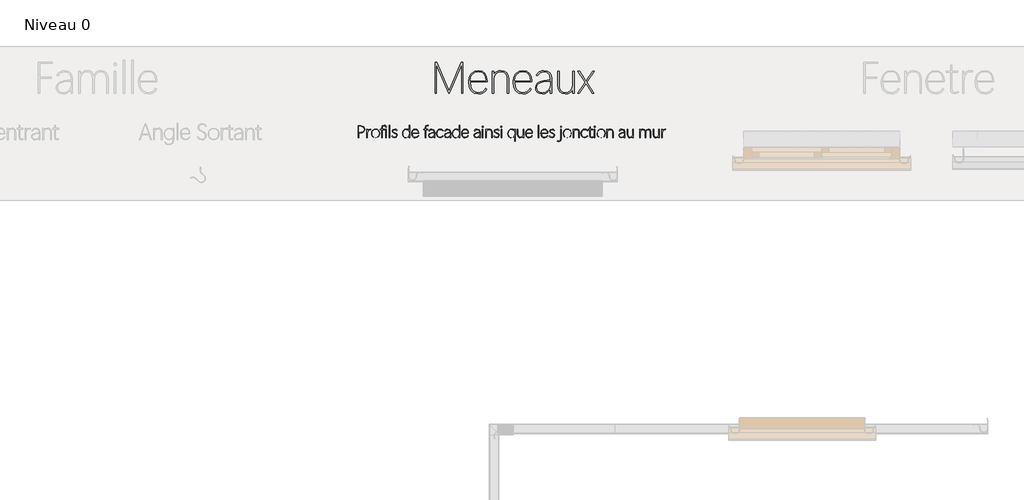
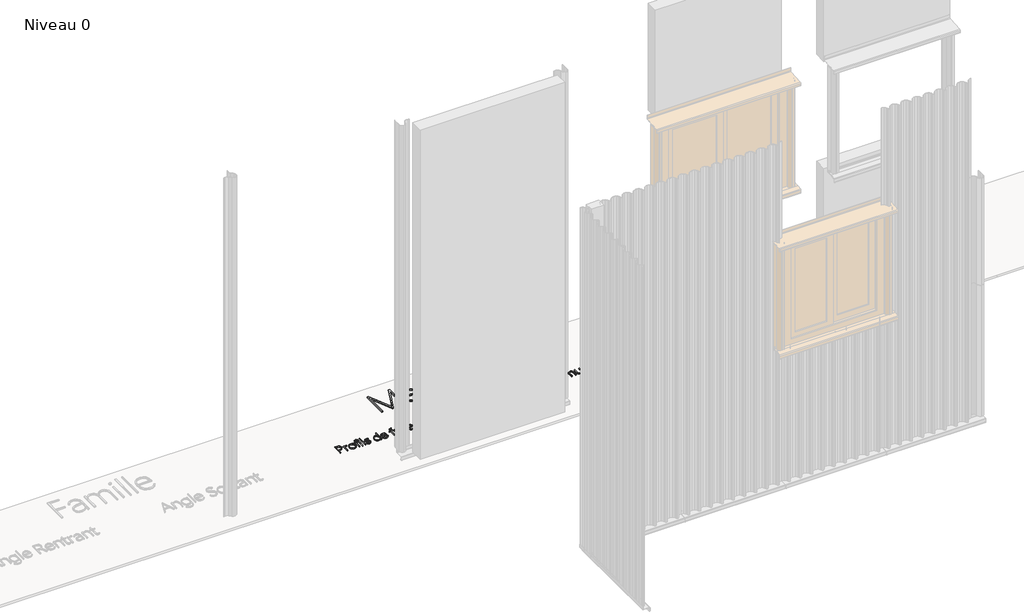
# One storey, part 6 of 11: 2 proxies.
"""IFC4 building model written with IfcOpenShell, lengths in millimetres."""

from ifc_helpers import new_model, si_unit, origin, origin_with_axes, place, context, project, spatial, polyline, outline, extrude, element, save

model = new_model("IFC4")

# Units and contexts
model_context = context("Model", 3, world=origin())
ifc_project = project(units=[si_unit("LENGTHUNIT", "METRE", prefix="MILLI")], contexts=[model_context])

# Site, building, storey
site = spatial("IfcSite", under=ifc_project)
building = spatial("IfcBuilding", under=site)
storey = spatial("IfcBuildingStorey", under=building, Name="Niveau 0", Elevation=0.0)

# Proxies
placement = place(None, origin())
element("IfcBuildingElementProxy", 1, Name="0.75mm", ObjectType="0.75mm", at=placement, inside=storey, context=model_context, shape_type="SweptSolid", body=[
    extrude(outline(polyline([(3020.1278032, -15014.394328), (3020.1278032, -15044.8333427), (3016.6688242, -15044.8333427), (3016.6688242, -14969.8292897), (3032.5578114, -14969.8292897), (3042.4828493, -14971.2603027), (3050.16513, -14975.5533419), (3055.0858065, -14982.3959833), (3056.726032, -14991.475803), (3055.0913855, -15000.7146242), (3050.187446, -15008.03427), (3042.2652684, -15012.8043135), (3031.5759077, -15014.394328), (3020.1278032, -15014.394328)]), holes=[polyline([(3020.1278032, -14973.0651087), (3020.1278032, -15011.091561), (3031.6205397, -15011.091561), (3047.4648948, -15006.0258306), (3051.7830395, -14999.9112485), (3053.222421, -14991.698963), (3051.83604, -14983.9023129), (3047.6768967, -14978.0081012), (3032.2007555, -14973.0651087), (3020.1278032, -14973.0651087)])]), origin_with_axes(), (0.0, 0.0, 1.0), 10.0),
    extrude(outline(polyline([(3095.0202762, -14994.2653022), (3092.431621, -14993.3838205), (3089.8429658, -14993.1495025), (3083.7423312, -14994.7255695), (3078.8300232, -14999.4537706), (3074.5118785, -15017.630147), (3074.5118785, -15044.8333427), (3071.3206915, -15044.8333427), (3071.3206915, -14991.2749591), (3074.5118785, -14991.2749591), (3074.5118785, -15003.1024355), (3080.5260387, -14993.5511904), (3089.9991778, -14990.1814754), (3093.0787848, -14990.4381094), (3096.2699718, -14991.4311711), (3095.0202762, -14994.2653022)])), origin_with_axes(), (0.0, 0.0, 1.0), 10.0),
    extrude(outline(polyline([(3127.0437264, -15046.0830383), (3116.7811591, -15044.1471259), (3108.711138, -15038.3393887), (3103.4808271, -15029.4241494), (3101.7373902, -15018.1657309), (3103.5394066, -15006.8292063), (3108.945456, -14997.8135451), (3117.1242674, -14991.9221229), (3127.2445703, -14989.9583155), (3137.4541372, -14991.9277019), (3145.4544208, -14997.8358611), (3150.6261522, -15006.8292063), (3152.3500626, -15018.0541509), (3150.6038362, -15029.2986219), (3145.3651568, -15038.2612827), (3137.2923463, -15044.1275994), (3127.0437264, -15046.0830383)]), holes=[polyline([(3127.1553064, -15043.0034312), (3136.0928616, -15041.2655733), (3143.0442935, -15036.0519994), (3147.5130711, -15028.0656633), (3149.0026637, -15018.0095189), (3147.5186501, -15007.9589535), (3143.0666095, -14999.9893544), (3136.1430726, -14994.7925175), (3127.2445703, -14993.0602386), (3118.2958571, -14994.823202), (3111.2216873, -15000.1120924), (3106.6190137, -15008.1625869), (3105.0847891, -15018.2103628), (3106.5939082, -15028.2135068), (3111.1212653, -15036.1301053), (3118.1480136, -15041.2850998), (3127.1553064, -15043.0034312)])]), origin_with_axes(), (0.0, 0.0, 1.0), 10.0),
    extrude(outline(polyline([(3186.6943761, -14969.2490739), (3183.927193, -14968.0774842), (3180.9368499, -14967.6869543), (3173.1597263, -14971.0901433), (3170.4929651, -14981.1211822), (3170.4929651, -14991.2749591), (3185.2884686, -14991.2749591), (3185.2884686, -14994.2653022), (3170.4929651, -14994.2653022), (3170.4929651, -15044.8333427), (3167.3017781, -15044.8333427), (3167.3017781, -14994.2653022), (3157.4157931, -14994.2653022), (3157.4157931, -14991.2749591), (3167.3017781, -14991.2749591), (3167.3017781, -14980.9649703), (3170.905811, -14968.914334), (3181.0484299, -14964.6966112), (3184.5743568, -14965.1206151), (3188.1672317, -14966.5265227), (3186.6943761, -14969.2490739)])), origin_with_axes(), (0.0, 0.0, 1.0), 10.0),
    extrude(outline(polyline([(3195.7100374, -15044.8333427), (3192.4519024, -15044.8333427), (3192.4519024, -14991.2749591), (3195.7100374, -14991.2749591), (3195.7100374, -15044.8333427)])), origin_with_axes(), (0.0, 0.0, 1.0), 10.0),
    extrude(outline(polyline([(3194.0363379, -14978.1977871), (3191.5704206, -14977.2605154), (3190.5773589, -14974.8057561), (3191.5704206, -14972.3398389), (3194.0363379, -14971.3914092), (3196.5580451, -14972.3398389), (3197.4730008, -14974.8057561), (3196.5580451, -14977.2605154), (3194.0363379, -14978.1977871)])), origin_with_axes(), (0.0, 0.0, 1.0), 10.0),
    extrude(outline(polyline([(3214.1430477, -15044.8333427), (3214.1430477, -14965.544619), (3217.3788667, -14965.544619), (3217.3788667, -15044.8333427), (3214.1430477, -15044.8333427)])), origin_with_axes(), (0.0, 0.0, 1.0), 10.0),
    extrude(outline(polyline([(3231.3709944, -15035.6837855), (3234.4059695, -15034.2109299), (3240.0407578, -15040.8387799), (3249.089893, -15043.1150112), (3258.0386062, -15039.9238242), (3261.6984291, -15031.2429028), (3258.819666, -15023.7000972), (3248.1526213, -15018.0987829), (3236.8607287, -15012.0065167), (3233.7811217, -15003.8834952), (3238.3224263, -14993.7297183), (3249.6254768, -14989.9583155), (3258.3063982, -14992.0337029), (3264.6887722, -14997.969757), (3261.8992731, -14999.5318766), (3256.5657507, -14994.6223581), (3249.5138969, -14992.9486586), (3240.5205516, -14995.8497377), (3237.0169407, -15003.5041234), (3239.4493839, -15009.9199714), (3249.3576849, -15015.0191758), (3261.5422172, -15021.5131298), (3265.0458281, -15030.9751109), (3260.4152595, -15042.0550015), (3249.089893, -15046.0830383), (3238.1662143, -15043.2600652), (3231.3709944, -15035.6837855)])), origin_with_axes(), (0.0, 0.0, 1.0), 10.0),
    extrude(outline(polyline([(3342.6496943, -15033.2736582), (3334.8279387, -15042.6910073), (3322.9558303, -15046.0830383), (3313.7030617, -15044.2196529), (3306.4754694, -15038.6294966), (3301.8142163, -15029.9541542), (3300.2604653, -15018.8352107), (3302.0317973, -15006.8571013), (3307.3457931, -14997.7019651), (3315.2874972, -14991.8942279), (3324.9419537, -14989.9583155), (3335.4751025, -14992.5469707), (3342.5715883, -14999.9112485), (3342.7278003, -14965.544619), (3345.9636193, -14965.544619), (3345.9636193, -15044.8333427), (3342.7278003, -15044.8333427), (3342.6496943, -15033.2736582)]), holes=[polyline([(3303.6078643, -15018.6343667), (3304.9607714, -15028.9053026), (3309.0194926, -15036.5987412), (3315.2317072, -15041.4022587), (3323.0450943, -15043.0034312), (3331.0983784, -15041.4664172), (3337.3608039, -15036.8553751), (3342.7278003, -15021.3569179), (3342.7278003, -15010.1542893), (3337.6509118, -14997.969757), (3324.8750058, -14993.0602386), (3316.4702448, -14994.784149), (3309.6443404, -14999.9558804), (3305.1169833, -15008.073323), (3303.6078643, -15018.6343667)])]), origin_with_axes(), (0.0, 0.0, 1.0), 10.0),
    extrude(outline(polyline([(3403.0032978, -15016.6594013), (3362.0980823, -15017.0499312), (3363.3617255, -15028.4673512), (3367.4650787, -15036.5652672), (3373.9227692, -15041.4050482), (3382.2494242, -15043.0480632), (3392.3808851, -15040.537514), (3399.5443189, -15033.0058663), (3402.37845, -15034.5233538), (3394.1661645, -15043.1931172), (3382.2494242, -15046.1499863), (3372.6395996, -15044.3228643), (3365.1888474, -15038.9753945), (3360.4104354, -15029.9011538), (3358.8176314, -15016.8937192), (3360.4690148, -15005.9114611), (3365.4231653, -14997.3337512), (3372.932497, -14991.8021744), (3382.2494242, -14989.9583155), (3391.0084515, -14991.6459625), (3397.5581955, -14996.7089034), (3401.6420222, -15004.9741894), (3403.0032978, -15016.6594013)]), holes=[polyline([(3399.7005308, -15014.0372721), (3394.8133283, -14998.3602869), (3382.1378442, -14993.0602386), (3368.4916144, -14998.4941829), (3362.2542943, -15014.0372721), (3399.7005308, -15014.0372721)])]), origin_with_axes(), (0.0, 0.0, 1.0), 10.0),
    extrude(outline(polyline([(3463.7697472, -14969.2490739), (3461.002564, -14968.0774842), (3458.0122209, -14967.6869543), (3450.2350973, -14971.0901433), (3447.5683361, -14981.1211822), (3447.5683361, -14991.2749591), (3462.3638396, -14991.2749591), (3462.3638396, -14994.2653022), (3447.5683361, -14994.2653022), (3447.5683361, -15044.8333427), (3444.3771491, -15044.8333427), (3444.3771491, -14994.2653022), (3434.4911642, -14994.2653022), (3434.4911642, -14991.2749591), (3444.3771491, -14991.2749591), (3444.3771491, -14980.9649703), (3447.981182, -14968.914334), (3458.1238009, -14964.6966112), (3461.6497278, -14965.1206151), (3465.2426027, -14966.5265227), (3463.7697472, -14969.2490739)])), origin_with_axes(), (0.0, 0.0, 1.0), 10.0),
    extrude(outline(polyline([(3505.5229704, -15044.8333427), (3502.2648354, -15044.8333427), (3502.2648354, -15034.5233538), (3494.3984478, -15042.8472193), (3483.0730813, -15046.0830383), (3471.022445, -15041.8987896), (3466.7600903, -15031.1759549), (3471.4129748, -15020.2745922), (3486.0187924, -15014.6621199), (3502.3317834, -15012.3635726), (3502.3317834, -15009.2170176), (3498.2256406, -14997.1663813), (3487.112276, -14993.0602386), (3477.7730329, -14995.5707878), (3471.0447609, -15002.9908555), (3468.0767339, -15001.317156), (3476.1997554, -14992.8705526), (3487.112276, -14989.9583155), (3500.5241879, -14994.957098), (3505.5229704, -15009.2616496), (3505.5229704, -15044.8333427)]), holes=[polyline([(3502.2648354, -15023.9678891), (3502.2648354, -15015.4431797), (3486.4204802, -15017.585515), (3474.05742, -15022.0487137), (3470.1074892, -15031.0866909), (3473.6892061, -15039.8680342), (3483.3408732, -15043.1150112), (3496.6523631, -15037.5918029), (3502.2648354, -15023.9678891)])]), origin_with_axes(), (0.0, 0.0, 1.0), 10.0),
    extrude(outline(polyline([(3560.7996854, -15036.1077894), (3552.8551919, -15043.4720671), (3541.4517194, -15046.0830383), (3531.8697898, -15044.1805999), (3524.1456667, -15038.4732846), (3519.0492517, -15029.5915194), (3517.3504468, -15018.1657309), (3519.1134102, -15006.5223614), (3524.4023006, -14997.5680692), (3532.3858471, -14991.8607539), (3542.2327791, -14989.9583155), (3552.7770859, -14992.4242327), (3560.6881055, -14999.7550365), (3558.1440822, -15001.518), (3551.0475964, -14994.979414), (3542.1881471, -14992.9932906), (3533.6439113, -14994.6753586), (3526.7566379, -14999.7215625), (3522.2125438, -15007.7078986), (3520.6978457, -15018.2103628), (3522.1734908, -15028.3669292), (3526.6004259, -15036.2528433), (3533.2924344, -15041.3157843), (3541.5632993, -15043.0034312), (3551.1814924, -15040.8053059), (3558.2333462, -15034.2109299), (3560.7996854, -15036.1077894)])), origin_with_axes(), (0.0, 0.0, 1.0), 10.0),
    extrude(outline(polyline([(3608.3550669, -15044.8333427), (3605.0969319, -15044.8333427), (3605.0969319, -15034.5233538), (3597.2305443, -15042.8472193), (3585.9051777, -15046.0830383), (3573.8545414, -15041.8987896), (3569.5921867, -15031.1759549), (3574.2450713, -15020.2745922), (3588.8508888, -15014.6621199), (3605.1638798, -15012.3635726), (3605.1638798, -15009.2170176), (3601.0577371, -14997.1663813), (3589.9443725, -14993.0602386), (3580.6051294, -14995.5707878), (3573.8768574, -15002.9908555), (3570.9088303, -15001.317156), (3579.0318518, -14992.8705526), (3589.9443725, -14989.9583155), (3603.3562844, -14994.957098), (3608.3550669, -15009.2616496), (3608.3550669, -15044.8333427)]), holes=[polyline([(3605.0969319, -15023.9678891), (3605.0969319, -15015.4431797), (3589.2525767, -15017.585515), (3576.8895165, -15022.0487137), (3572.9395857, -15031.0866909), (3576.5213026, -15039.8680342), (3586.1729697, -15043.1150112), (3599.4844596, -15037.5918029), (3605.0969319, -15023.9678891)])]), origin_with_axes(), (0.0, 0.0, 1.0), 10.0),
    extrude(outline(polyline([(3662.5717722, -15033.2736582), (3654.7500166, -15042.6910073), (3642.8779083, -15046.0830383), (3633.6251396, -15044.2196529), (3626.3975473, -15038.6294966), (3621.7362943, -15029.9541542), (3620.1825432, -15018.8352107), (3621.9538752, -15006.8571013), (3627.2678711, -14997.7019651), (3635.2095751, -14991.8942279), (3644.8640317, -14989.9583155), (3655.3971804, -14992.5469707), (3662.4936663, -14999.9112485), (3662.6498782, -14965.544619), (3665.8856972, -14965.544619), (3665.8856972, -15044.8333427), (3662.6498782, -15044.8333427), (3662.5717722, -15033.2736582)]), holes=[polyline([(3623.5299422, -15018.6343667), (3624.8828493, -15028.9053026), (3628.9415705, -15036.5987412), (3635.1537851, -15041.4022587), (3642.9671722, -15043.0034312), (3651.0204563, -15041.4664172), (3657.2828819, -15036.8553751), (3662.6498782, -15021.3569179), (3662.6498782, -15010.1542893), (3657.5729898, -14997.969757), (3644.7970837, -14993.0602386), (3636.3923228, -14994.784149), (3629.5664184, -14999.9558804), (3625.0390612, -15008.073323), (3623.5299422, -15018.6343667)])]), origin_with_axes(), (0.0, 0.0, 1.0), 10.0),
    extrude(outline(polyline([(3722.9253757, -15016.6594013), (3682.0201603, -15017.0499312), (3683.2838034, -15028.4673512), (3687.3871566, -15036.5652672), (3693.8448471, -15041.4050482), (3702.1715021, -15043.0480632), (3712.302963, -15040.537514), (3719.4663968, -15033.0058663), (3722.3005279, -15034.5233538), (3714.0882424, -15043.1931172), (3702.1715021, -15046.1499863), (3692.5616775, -15044.3228643), (3685.1109253, -15038.9753945), (3680.3325133, -15029.9011538), (3678.7397093, -15016.8937192), (3680.3910928, -15005.9114611), (3685.3452433, -14997.3337512), (3692.8545749, -14991.8021744), (3702.1715021, -14989.9583155), (3710.9305294, -14991.6459625), (3717.4802734, -14996.7089034), (3721.5641001, -15004.9741894), (3722.9253757, -15016.6594013)]), holes=[polyline([(3719.6226087, -15014.0372721), (3714.7354062, -14998.3602869), (3702.0599221, -14993.0602386), (3688.4136923, -14998.4941829), (3682.1763722, -15014.0372721), (3719.6226087, -15014.0372721)])]), origin_with_axes(), (0.0, 0.0, 1.0), 10.0),
    extrude(outline(polyline([(3796.8805771, -15044.8333427), (3793.6224421, -15044.8333427), (3793.6224421, -15034.5233538), (3785.7560545, -15042.8472193), (3774.4306879, -15046.0830383), (3762.3800516, -15041.8987896), (3758.1176969, -15031.1759549), (3762.7705815, -15020.2745922), (3777.376399, -15014.6621199), (3793.68939, -15012.3635726), (3793.68939, -15009.2170176), (3789.5832473, -14997.1663813), (3778.4698827, -14993.0602386), (3769.1306396, -14995.5707878), (3762.4023676, -15002.9908555), (3759.4343405, -15001.317156), (3767.557362, -14992.8705526), (3778.4698827, -14989.9583155), (3791.8817946, -14994.957098), (3796.8805771, -15009.2616496), (3796.8805771, -15044.8333427)]), holes=[polyline([(3793.6224421, -15023.9678891), (3793.6224421, -15015.4431797), (3777.7780869, -15017.585515), (3765.4150267, -15022.0487137), (3761.4650959, -15031.0866909), (3765.0468128, -15039.8680342), (3774.6984799, -15043.1150112), (3788.0099698, -15037.5918029), (3793.6224421, -15023.9678891)])]), origin_with_axes(), (0.0, 0.0, 1.0), 10.0),
    extrude(outline(polyline([(3813.8853638, -14978.1977871), (3811.4194466, -14977.2605154), (3810.4263849, -14974.8057561), (3811.4194466, -14972.3398389), (3813.8853638, -14971.3914092), (3816.4070711, -14972.3398389), (3817.3220268, -14974.8057561), (3816.4070711, -14977.2605154), (3813.8853638, -14978.1977871)])), origin_with_axes(), (0.0, 0.0, 1.0), 10.0),
    extrude(outline(polyline([(3815.5590633, -15044.8333427), (3812.3009283, -15044.8333427), (3812.3009283, -14991.2749591), (3815.5590633, -14991.2749591), (3815.5590633, -15044.8333427)])), origin_with_axes(), (0.0, 0.0, 1.0), 10.0),
    extrude(outline(polyline([(3873.6922255, -15044.8333427), (3870.5010385, -15044.8333427), (3870.5010385, -15011.4709329), (3866.4172117, -14997.8916511), (3855.0583712, -14993.0602386), (3842.2043592, -14998.237549), (3837.2278927, -15011.4709329), (3837.2278927, -15044.8333427), (3833.9920737, -15044.8333427), (3833.9920737, -14991.2749591), (3837.2278927, -14991.2749591), (3837.2278927, -15000.4245163), (3844.5810124, -14992.6585507), (3855.2368992, -14989.9583155), (3863.0251808, -14991.3781706), (3868.849655, -14995.6377358), (3873.6922255, -15011.158509), (3873.6922255, -15044.8333427)])), origin_with_axes(), (0.0, 0.0, 1.0), 10.0),
    extrude(outline(polyline([(3885.4973859, -15035.6837855), (3888.532361, -15034.2109299), (3894.1671492, -15040.8387799), (3903.2162845, -15043.1150112), (3912.1649977, -15039.9238242), (3915.8248206, -15031.2429028), (3912.9460575, -15023.7000972), (3902.2790127, -15018.0987829), (3890.9871202, -15012.0065167), (3887.9075132, -15003.8834952), (3892.4488178, -14993.7297183), (3903.7518683, -14989.9583155), (3912.4327896, -14992.0337029), (3918.8151637, -14997.969757), (3916.0256645, -14999.5318766), (3910.6921422, -14994.6223581), (3903.6402883, -14992.9486586), (3894.6469431, -14995.8497377), (3891.1433322, -15003.5041234), (3893.5757754, -15009.9199714), (3903.4840764, -15015.0191758), (3915.6686086, -15021.5131298), (3919.1722196, -15030.9751109), (3914.541651, -15042.0550015), (3903.2162845, -15046.0830383), (3892.2926058, -15043.2600652), (3885.4973859, -15035.6837855)])), origin_with_axes(), (0.0, 0.0, 1.0), 10.0),
    extrude(outline(polyline([(3933.8561431, -14978.1977871), (3931.3902258, -14977.2605154), (3930.3971641, -14974.8057561), (3931.3902258, -14972.3398389), (3933.8561431, -14971.3914092), (3936.3778503, -14972.3398389), (3937.292806, -14974.8057561), (3936.3778503, -14977.2605154), (3933.8561431, -14978.1977871)])), origin_with_axes(), (0.0, 0.0, 1.0), 10.0),
    extrude(outline(polyline([(3935.5298426, -15044.8333427), (3932.2717076, -15044.8333427), (3932.2717076, -14991.2749591), (3935.5298426, -14991.2749591), (3935.5298426, -15044.8333427)])), origin_with_axes(), (0.0, 0.0, 1.0), 10.0),
    extrude(outline(polyline([(4021.5133642, -15069.4701991), (4018.2775452, -15069.4701991), (4018.2775452, -15033.2290262), (4010.2326297, -15042.7356393), (3998.5055752, -15046.0830383), (3989.2249116, -15044.2196529), (3982.0028983, -15038.6294966), (3977.3583822, -15029.9541542), (3975.8102102, -15018.8352107), (3977.5815422, -15006.8571013), (3982.895538, -14997.7019651), (3990.8372421, -14991.8942279), (4000.4916986, -14989.9583155), (4011.0025314, -14992.5023387), (4018.1213332, -14999.9558804), (4018.2775452, -14991.2749591), (4021.5133642, -14991.2749591), (4021.5133642, -15069.4701991)]), holes=[polyline([(4018.2775452, -15021.2007059), (4018.2775452, -15010.3551333), (4013.2564467, -14997.9474411), (4000.4247507, -14993.0602386), (3992.0199897, -14994.77857), (3985.1940853, -14999.9335644), (3980.6667282, -15008.045428), (3979.1576092, -15018.6343667), (3980.5021478, -15028.9053026), (3984.5357635, -15036.5987412), (3990.7396096, -15041.4022587), (3998.5948392, -15043.0034312), (4006.5783858, -15041.4524697), (4012.8547588, -15036.7995851), (4018.2775452, -15021.2007059)])]), origin_with_axes(), (0.0, 0.0, 1.0), 10.0),
    extrude(outline(polyline([(4076.8347112, -15044.7887107), (4073.6435242, -15044.7887107), (4073.6435242, -15035.6168375), (4066.2122985, -15043.3939611), (4055.8576777, -15046.0830383), (4048.091712, -15044.6854992), (4042.1556579, -15040.492882), (4037.1345594, -15025.0167408), (4037.1345594, -14991.2303271), (4040.3703784, -14991.2303271), (4040.3703784, -15024.7043169), (4044.5769431, -15038.1162287), (4056.1254696, -15043.0034312), (4068.6670577, -15037.8038048), (4073.6435242, -15024.5927369), (4073.6435242, -14991.2303271), (4076.8347112, -14991.2303271), (4076.8347112, -15044.7887107)])), origin_with_axes(), (0.0, 0.0, 1.0), 10.0),
    extrude(outline(polyline([(4132.8255381, -15016.6594013), (4091.9203226, -15017.0499312), (4093.1839657, -15028.4673512), (4097.287319, -15036.5652672), (4103.7450095, -15041.4050482), (4112.0716644, -15043.0480632), (4122.2031253, -15040.537514), (4129.3665591, -15033.0058663), (4132.2006903, -15034.5233538), (4123.9884048, -15043.1931172), (4112.0716644, -15046.1499863), (4102.4618399, -15044.3228643), (4095.0110877, -15038.9753945), (4090.2326756, -15029.9011538), (4088.6398716, -15016.8937192), (4090.2912551, -15005.9114611), (4095.2454056, -14997.3337512), (4102.7547373, -14991.8021744), (4112.0716644, -14989.9583155), (4120.8306917, -14991.6459625), (4127.3804357, -14996.7089034), (4131.4642625, -15004.9741894), (4132.8255381, -15016.6594013)]), holes=[polyline([(4129.5227711, -15014.0372721), (4124.6355686, -14998.3602869), (4111.9600845, -14993.0602386), (4098.3138546, -14998.4941829), (4092.0765346, -15014.0372721), (4129.5227711, -15014.0372721)])]), origin_with_axes(), (0.0, 0.0, 1.0), 10.0),
    extrude(outline(polyline([(4171.0528343, -15044.8333427), (4171.0528343, -14965.544619), (4174.2886534, -14965.544619), (4174.2886534, -15044.8333427), (4171.0528343, -15044.8333427)])), origin_with_axes(), (0.0, 0.0, 1.0), 10.0),
    extrude(outline(polyline([(4231.3729639, -15016.6594013), (4190.4677484, -15017.0499312), (4191.7313915, -15028.4673512), (4195.8347448, -15036.5652672), (4202.2924353, -15041.4050482), (4210.6190902, -15043.0480632), (4220.7505511, -15040.537514), (4227.9139849, -15033.0058663), (4230.748116, -15034.5233538), (4222.5358306, -15043.1931172), (4210.6190902, -15046.1499863), (4201.0092657, -15044.3228643), (4193.5585134, -15038.9753945), (4188.7801014, -15029.9011538), (4187.1872974, -15016.8937192), (4188.8386809, -15005.9114611), (4193.7928314, -14997.3337512), (4201.3021631, -14991.8021744), (4210.6190902, -14989.9583155), (4219.3781175, -14991.6459625), (4225.9278615, -14996.7089034), (4230.0116883, -15004.9741894), (4231.3729639, -15016.6594013)]), holes=[polyline([(4228.0701969, -15014.0372721), (4223.1829944, -14998.3602869), (4210.5075103, -14993.0602386), (4196.8612804, -14998.4941829), (4190.6239603, -15014.0372721), (4228.0701969, -15014.0372721)])]), origin_with_axes(), (0.0, 0.0, 1.0), 10.0),
    extrude(outline(polyline([(4241.1250529, -15035.6837855), (4244.1600279, -15034.2109299), (4249.7948162, -15040.8387799), (4258.8439514, -15043.1150112), (4267.7926647, -15039.9238242), (4271.4524876, -15031.2429028), (4268.5737245, -15023.7000972), (4257.9066797, -15018.0987829), (4246.6147872, -15012.0065167), (4243.5351801, -15003.8834952), (4248.0764847, -14993.7297183), (4259.3795353, -14989.9583155), (4268.0604566, -14992.0337029), (4274.4428307, -14997.969757), (4271.6533315, -14999.5318766), (4266.3198091, -14994.6223581), (4259.2679553, -14992.9486586), (4250.2746101, -14995.8497377), (4246.7709991, -15003.5041234), (4249.2034424, -15009.9199714), (4259.1117434, -15015.0191758), (4271.2962756, -15021.5131298), (4274.7998865, -15030.9751109), (4270.169318, -15042.0550015), (4258.8439514, -15046.0830383), (4247.9202728, -15043.2600652), (4241.1250529, -15035.6837855)])), origin_with_axes(), (0.0, 0.0, 1.0), 10.0),
    extrude(outline(polyline([(4316.7539537, -14978.1977871), (4314.2880364, -14977.2047254), (4313.2949747, -14974.8057561), (4314.2880364, -14972.3621549), (4316.7539537, -14971.3914092), (4319.2421869, -14972.3621549), (4320.2129326, -14974.8057561), (4319.2421869, -14977.2047254), (4316.7539537, -14978.1977871)])), origin_with_axes(), (0.0, 0.0, 1.0), 10.0),
    extrude(outline(polyline([(4318.3830212, -15049.2742253), (4314.3549844, -15064.9177365), (4302.62793, -15069.983467), (4297.4283036, -15069.2805132), (4293.009737, -15067.3278638), (4294.5272245, -15064.5606806), (4298.2874693, -15066.4017501), (4302.583298, -15066.9484919), (4312.0787531, -15062.7196112), (4315.1918342, -15049.4973853), (4315.1918342, -14991.2749591), (4318.3830212, -14991.2749591), (4318.3830212, -15049.2742253)])), origin_with_axes(), (0.0, 0.0, 1.0), 10.0),
    extrude(outline(polyline([(4356.7442134, -15046.0830383), (4346.4816461, -15044.1471259), (4338.411625, -15038.3393887), (4333.1813141, -15029.4241494), (4331.4378772, -15018.1657309), (4333.2398936, -15006.8292063), (4338.645943, -14997.8135451), (4346.8247545, -14991.9221229), (4356.9450574, -14989.9583155), (4367.1546242, -14991.9277019), (4375.1549078, -14997.8358611), (4380.3266392, -15006.8292063), (4382.0505497, -15018.0541509), (4380.3043232, -15029.2986219), (4375.0656438, -15038.2612827), (4366.9928333, -15044.1275994), (4356.7442134, -15046.0830383)]), holes=[polyline([(4356.8557934, -15043.0034312), (4365.7933486, -15041.2655733), (4372.7447805, -15036.0519994), (4377.2135581, -15028.0656633), (4378.7031507, -15018.0095189), (4377.2191371, -15007.9589535), (4372.7670965, -14999.9893544), (4365.8435596, -14994.7925175), (4356.9450574, -14993.0602386), (4347.9963441, -14994.823202), (4340.9221743, -15000.1120924), (4336.3195007, -15008.1625869), (4334.7852762, -15018.2103628), (4336.2943952, -15028.2135068), (4340.8217523, -15036.1301053), (4347.8485006, -15041.2850998), (4356.8557934, -15043.0034312)])]), origin_with_axes(), (0.0, 0.0, 1.0), 10.0),
    extrude(outline(polyline([(4433.5558619, -15044.8333427), (4430.3646749, -15044.8333427), (4430.3646749, -15011.4709329), (4426.2808481, -14997.8916511), (4414.9220076, -14993.0602386), (4402.0679955, -14998.237549), (4397.0915291, -15011.4709329), (4397.0915291, -15044.8333427), (4393.85571, -15044.8333427), (4393.85571, -14991.2749591), (4397.0915291, -14991.2749591), (4397.0915291, -15000.4245163), (4404.4446488, -14992.6585507), (4415.1005355, -14989.9583155), (4422.8888171, -14991.3781706), (4428.7132914, -14995.6377358), (4433.5558619, -15011.158509), (4433.5558619, -15044.8333427)])), origin_with_axes(), (0.0, 0.0, 1.0), 10.0),
    extrude(outline(polyline([(4487.7167773, -15036.1077894), (4479.7722837, -15043.4720671), (4468.3688112, -15046.0830383), (4458.7868816, -15044.1805999), (4451.0627585, -15038.4732846), (4445.9663436, -15029.5915194), (4444.2675386, -15018.1657309), (4446.030502, -15006.5223614), (4451.3193924, -14997.5680692), (4459.302939, -14991.8607539), (4469.149871, -14989.9583155), (4479.6941777, -14992.4242327), (4487.6051973, -14999.7550365), (4485.0611741, -15001.518), (4477.9646883, -14994.979414), (4469.105239, -14992.9932906), (4460.5610031, -14994.6753586), (4453.6737297, -14999.7215625), (4449.1296356, -15007.7078986), (4447.6149376, -15018.2103628), (4449.0905826, -15028.3669292), (4453.5175178, -15036.2528433), (4460.2095262, -15041.3157843), (4468.4803912, -15043.0034312), (4478.0985842, -15040.8053059), (4485.1504381, -15034.2109299), (4487.7167773, -15036.1077894)])), origin_with_axes(), (0.0, 0.0, 1.0), 10.0),
    extrude(outline(polyline([(4521.5031909, -15042.2223715), (4517.0957823, -15045.0230286), (4512.2420538, -15045.8821944), (4504.6880901, -15042.9476413), (4502.1552248, -15034.166298), (4502.1552248, -14994.2653022), (4492.3361879, -14994.2653022), (4492.3361879, -14991.2749591), (4502.1552248, -14991.2749591), (4502.1552248, -14976.8811435), (4505.3910439, -14976.3232437), (4505.3910439, -14991.2749591), (4519.9857034, -14991.2749591), (4519.9857034, -14994.2653022), (4505.3910439, -14994.2653022), (4505.3910439, -15033.943138), (4507.1763233, -15040.67141), (4512.4652137, -15042.8918513), (4516.1473526, -15042.1888975), (4519.6286475, -15039.8568762), (4521.5031909, -15042.2223715)])), origin_with_axes(), (0.0, 0.0, 1.0), 10.0),
    extrude(outline(polyline([(4532.2818156, -14978.1977871), (4529.8158984, -14977.2605154), (4528.8228367, -14974.8057561), (4529.8158984, -14972.3398389), (4532.2818156, -14971.3914092), (4534.8035228, -14972.3398389), (4535.7184786, -14974.8057561), (4534.8035228, -14977.2605154), (4532.2818156, -14978.1977871)])), origin_with_axes(), (0.0, 0.0, 1.0), 10.0),
    extrude(outline(polyline([(4533.9555151, -15044.8333427), (4530.6973801, -15044.8333427), (4530.6973801, -14991.2749591), (4533.9555151, -14991.2749591), (4533.9555151, -15044.8333427)])), origin_with_axes(), (0.0, 0.0, 1.0), 10.0),
    extrude(outline(polyline([(4573.8341949, -15046.0830383), (4563.5716275, -15044.1471259), (4555.5016065, -15038.3393887), (4550.2712956, -15029.4241494), (4548.5278586, -15018.1657309), (4550.3298751, -15006.8292063), (4555.7359244, -14997.8135451), (4563.9147359, -14991.9221229), (4574.0350388, -14989.9583155), (4584.2446057, -14991.9277019), (4592.2448892, -14997.8358611), (4597.4166206, -15006.8292063), (4599.1405311, -15018.0541509), (4597.3943046, -15029.2986219), (4592.1556253, -15038.2612827), (4584.0828147, -15044.1275994), (4573.8341949, -15046.0830383)]), holes=[polyline([(4573.9457748, -15043.0034312), (4582.8833301, -15041.2655733), (4589.834762, -15036.0519994), (4594.3035396, -15028.0656633), (4595.7931321, -15018.0095189), (4594.3091186, -15007.9589535), (4589.857078, -14999.9893544), (4582.9335411, -14994.7925175), (4574.0350388, -14993.0602386), (4565.0863255, -14994.823202), (4558.0121557, -15000.1120924), (4553.4094821, -15008.1625869), (4551.8752576, -15018.2103628), (4553.3843766, -15028.2135068), (4557.9117337, -15036.1301053), (4564.9384821, -15041.2850998), (4573.9457748, -15043.0034312)])]), origin_with_axes(), (0.0, 0.0, 1.0), 10.0),
    extrude(outline(polyline([(4650.6458433, -15044.8333427), (4647.4546563, -15044.8333427), (4647.4546563, -15011.4709329), (4643.3708296, -14997.8916511), (4632.011989, -14993.0602386), (4619.157977, -14998.237549), (4614.1815105, -15011.4709329), (4614.1815105, -15044.8333427), (4610.9456915, -15044.8333427), (4610.9456915, -14991.2749591), (4614.1815105, -14991.2749591), (4614.1815105, -15000.4245163), (4621.5346302, -14992.6585507), (4632.190517, -14989.9583155), (4639.9787986, -14991.3781706), (4645.8032728, -14995.6377358), (4650.6458433, -15011.158509), (4650.6458433, -15044.8333427)])), origin_with_axes(), (0.0, 0.0, 1.0), 10.0),
    extrude(outline(polyline([(4726.654116, -15044.8333427), (4723.395981, -15044.8333427), (4723.395981, -15034.5233538), (4715.5295934, -15042.8472193), (4704.2042269, -15046.0830383), (4692.1535906, -15041.8987896), (4687.8912359, -15031.1759549), (4692.5441205, -15020.2745922), (4707.149938, -15014.6621199), (4723.462929, -15012.3635726), (4723.462929, -15009.2170176), (4719.3567863, -14997.1663813), (4708.2434217, -14993.0602386), (4698.9041785, -14995.5707878), (4692.1759066, -15002.9908555), (4689.2078795, -15001.317156), (4697.330901, -14992.8705526), (4708.2434217, -14989.9583155), (4721.6553336, -14994.957098), (4726.654116, -15009.2616496), (4726.654116, -15044.8333427)]), holes=[polyline([(4723.395981, -15023.9678891), (4723.395981, -15015.4431797), (4707.5516259, -15017.585515), (4695.1885657, -15022.0487137), (4691.2386349, -15031.0866909), (4694.8203518, -15039.8680342), (4704.4720188, -15043.1150112), (4717.7835087, -15037.5918029), (4723.395981, -15023.9678891)])]), origin_with_axes(), (0.0, 0.0, 1.0), 10.0),
    extrude(outline(polyline([(4780.9489274, -15044.7887107), (4777.7577404, -15044.7887107), (4777.7577404, -15035.6168375), (4770.3265146, -15043.3939611), (4759.9718938, -15046.0830383), (4752.2059282, -15044.6854992), (4746.269874, -15040.492882), (4741.2487755, -15025.0167408), (4741.2487755, -14991.2303271), (4744.4845946, -14991.2303271), (4744.4845946, -15024.7043169), (4748.6911593, -15038.1162287), (4760.2396857, -15043.0034312), (4772.7812739, -15037.8038048), (4777.7577404, -15024.5927369), (4777.7577404, -14991.2303271), (4780.9489274, -14991.2303271), (4780.9489274, -15044.7887107)])), origin_with_axes(), (0.0, 0.0, 1.0), 10.0),
    extrude(outline(polyline([(4892.3503652, -15044.8333427), (4889.1591782, -15044.8333427), (4889.1591782, -15011.4709329), (4885.4435653, -14997.5569112), (4875.1447345, -14993.0602386), (4863.618524, -14998.3379709), (4858.9879554, -15011.7833568), (4858.9879554, -15044.8333427), (4855.7521364, -15044.8333427), (4855.7521364, -15011.203141), (4852.3266315, -14997.8135451), (4842.1393806, -14993.0602386), (4830.1891663, -14998.125969), (4825.5585977, -15011.4039849), (4825.5585977, -15044.8333427), (4822.3227787, -15044.8333427), (4822.3227787, -14991.2749591), (4825.5585977, -14991.2749591), (4825.5585977, -15000.0005124), (4832.6550835, -14992.5023387), (4842.4071725, -14989.9583155), (4852.6836874, -14993.4619264), (4857.8944718, -15002.7900116), (4864.7901137, -14993.3391885), (4875.1893665, -14989.9583155), (4882.5369072, -14991.3140121), (4887.9317986, -14995.3811018), (4892.3503652, -15011.203141), (4892.3503652, -15044.8333427)])), origin_with_axes(), (0.0, 0.0, 1.0), 10.0),
    extrude(outline(polyline([(4946.6228606, -15044.7887107), (4943.4316736, -15044.7887107), (4943.4316736, -15035.6168375), (4936.0004478, -15043.3939611), (4925.645827, -15046.0830383), (4917.8798614, -15044.6854992), (4911.9438072, -15040.492882), (4906.9227088, -15025.0167408), (4906.9227088, -14991.2303271), (4910.1585278, -14991.2303271), (4910.1585278, -15024.7043169), (4914.3650925, -15038.1162287), (4925.9136189, -15043.0034312), (4938.4552071, -15037.8038048), (4943.4316736, -15024.5927369), (4943.4316736, -14991.2303271), (4946.6228606, -14991.2303271), (4946.6228606, -15044.7887107)])), origin_with_axes(), (0.0, 0.0, 1.0), 10.0),
    extrude(outline(polyline([(4985.9882725, -14994.2653022), (4983.3996173, -14993.3838205), (4980.8109621, -14993.1495025), (4974.7103275, -14994.7255695), (4969.7980195, -14999.4537706), (4965.4798748, -15017.630147), (4965.4798748, -15044.8333427), (4962.2886878, -15044.8333427), (4962.2886878, -14991.2749591), (4965.4798748, -14991.2749591), (4965.4798748, -15003.1024355), (4971.494035, -14993.5511904), (4980.9671741, -14990.1814754), (4984.0467811, -14990.4381094), (4987.2379681, -14991.4311711), (4985.9882725, -14994.2653022)])), origin_with_axes(), (0.0, 0.0, 1.0), 10.0),
])
element("IfcBuildingElementProxy", 2, Name="2mm", ObjectType="2mm", at=placement, inside=storey, context=model_context, shape_type="SweptSolid", body=[
    extrude(outline(polyline([(3687.2817311, -14760.83192), (3678.5338617, -14760.83192), (3678.5338617, -14595.3960241), (3678.5338617, -14589.8914125), (3678.6528804, -14580.5186953), (3676.2129984, -14584.8628753), (3674.1896817, -14589.4450926), (3600.398131, -14760.83192), (3595.9349324, -14760.83192), (3522.0243631, -14589.8616578), (3520.0010463, -14585.3091952), (3517.9777296, -14580.5186953), (3517.6801831, -14587.06472), (3517.6801831, -14593.7297633), (3517.6801831, -14760.83192), (3508.6347672, -14760.83192), (3508.6347672, -14560.821112), (3518.5133135, -14560.821112), (3594.2686716, -14735.8380077), (3596.053951, -14740.0036598), (3598.0177584, -14744.9429329), (3600.5469043, -14740.1226784), (3602.659485, -14735.3024239), (3677.81975, -14560.821112), (3687.2817311, -14560.821112), (3687.2817311, -14760.83192)])), origin_with_axes(), (0.0, 0.0, 1.0), 10.0),
    extrude(outline(polyline([(3841.8869317, -14686.7428228), (3732.8063571, -14686.7428228), (3736.1760721, -14717.1892761), (3747.1183474, -14738.7837188), (3764.3388554, -14751.6898015), (3786.5432686, -14756.0711748), (3800.8850136, -14754.3974754), (3813.5604977, -14749.3763769), (3824.2572971, -14741.0078795), (3832.6629878, -14729.291983), (3840.2206708, -14733.3386165), (3830.6396711, -14746.735651), (3818.3212429, -14756.4579854), (3803.5331781, -14762.3717236), (3786.5432686, -14764.3429696), (3760.9170698, -14759.4706445), (3741.0483972, -14745.2107248), (3728.3059651, -14721.0127496), (3724.0584878, -14686.3262576), (3728.4621771, -14657.0402359), (3741.673245, -14634.1663429), (3761.6981296, -14619.4154714), (3786.5432686, -14614.4985142), (3809.9006748, -14618.9989062), (3827.3666588, -14632.5000821), (3838.2568634, -14654.5408446), (3841.8869317, -14684.6599967), (3841.8869317, -14686.7428228)]), holes=[polyline([(3833.079553, -14678.7090652), (3829.5536261, -14654.421826), (3820.047013, -14636.9037714), (3805.3482122, -14626.3036746), (3786.245722, -14622.770309), (3766.1390122, -14626.3929386), (3749.8557759, -14637.2608273), (3738.5118127, -14654.8681459), (3733.2229223, -14678.7090652), (3833.079553, -14678.7090652)])]), origin_with_axes(), (0.0, 0.0, 1.0), 10.0),
    extrude(outline(polyline([(3981.138729, -14760.83192), (3972.6288969, -14760.83192), (3972.6288969, -14671.865494), (3969.9063457, -14651.1488137), (3961.7386922, -14635.6540758), (3948.7210296, -14625.9912507), (3931.4484509, -14622.770309), (3912.3757154, -14626.2218493), (3897.1710854, -14636.5764701), (3887.2181524, -14652.3018067), (3883.9005081, -14671.865494), (3883.9005081, -14760.83192), (3875.2716574, -14760.83192), (3875.2716574, -14618.0095638), (3883.9005081, -14618.0095638), (3883.9005081, -14642.408383), (3892.6855708, -14630.4767653), (3903.5088274, -14621.6991414), (3916.6380701, -14616.298671), (3931.9245254, -14614.4985142), (3952.6932764, -14618.2847944), (3968.2252076, -14629.6436349), (3977.9103486, -14647.5633774), (3981.138729, -14671.0323636), (3981.138729, -14760.83192)])), origin_with_axes(), (0.0, 0.0, 1.0), 10.0),
    extrude(outline(polyline([(4127.5316441, -14686.7428228), (4018.4510695, -14686.7428228), (4021.8207845, -14717.1892761), (4032.7630598, -14738.7837188), (4049.9835679, -14751.6898015), (4072.1879811, -14756.0711748), (4086.529726, -14754.3974754), (4099.2052101, -14749.3763769), (4109.9020095, -14741.0078795), (4118.3077003, -14729.291983), (4125.8653833, -14733.3386165), (4116.2843835, -14746.735651), (4103.9659553, -14756.4579854), (4089.1778905, -14762.3717236), (4072.1879811, -14764.3429696), (4046.5617822, -14759.4706445), (4026.6931097, -14745.2107248), (4013.9506776, -14721.0127496), (4009.7032002, -14686.3262576), (4014.1068895, -14657.0402359), (4027.3179575, -14634.1663429), (4047.342842, -14619.4154714), (4072.1879811, -14614.4985142), (4095.5453872, -14618.9989062), (4113.0113712, -14632.5000821), (4123.9015759, -14654.5408446), (4127.5316441, -14684.6599967), (4127.5316441, -14686.7428228)]), holes=[polyline([(4118.7242655, -14678.7090652), (4115.1983385, -14654.421826), (4105.6917255, -14636.9037714), (4090.9929246, -14626.3036746), (4071.8904345, -14622.770309), (4051.7837246, -14626.3929386), (4035.5004883, -14637.2608273), (4024.1565251, -14654.8681459), (4018.8676347, -14678.7090652), (4118.7242655, -14678.7090652)])]), origin_with_axes(), (0.0, 0.0, 1.0), 10.0),
    extrude(outline(polyline([(4256.1907833, -14760.83192), (4247.5024233, -14760.83192), (4247.5024233, -14733.3386165), (4238.4644461, -14745.671922), (4226.5253897, -14755.535591), (4212.1762061, -14762.007229), (4196.3244123, -14764.1644417), (4177.9062793, -14761.3749425), (4164.1893822, -14753.0064451), (4155.6646728, -14740.2788903), (4152.823103, -14724.4122192), (4155.9250261, -14708.2182468), (4165.2307952, -14695.3419188), (4181.171853, -14685.9915177), (4204.1796419, -14680.375326), (4247.6809513, -14674.2458666), (4247.6809513, -14665.8550532), (4244.9435228, -14647.2286375), (4236.7312373, -14633.720023), (4223.8474706, -14625.5077375), (4207.0955984, -14622.770309), (4193.8175824, -14624.4440085), (4182.19095, -14629.465107), (4172.304965, -14637.7592178), (4164.2488915, -14649.2519543), (4156.3341526, -14644.7887556), (4166.0639256, -14631.7785316), (4177.9955433, -14622.2644799), (4191.7868271, -14616.4400056), (4207.0955984, -14614.4985142), (4227.2543789, -14617.8310359), (4242.8606967, -14627.8286008), (4252.8582617, -14644.0300119), (4256.1907833, -14665.9740718), (4256.1907833, -14760.83192)]), holes=[polyline([(4247.5024233, -14705.1907104), (4247.5024233, -14682.4581521), (4205.2508096, -14688.1710463), (4185.7912636, -14692.6639996), (4172.282649, -14700.0729093), (4164.3827875, -14710.5316715), (4161.7495003, -14724.174182), (4164.1373115, -14737.4075659), (4171.3007453, -14747.5910974), (4182.5108126, -14754.0850514), (4197.0385241, -14756.2497028), (4216.1782076, -14752.5675639), (4232.5358306, -14741.5211473), (4243.7607751, -14725.0742603), (4247.5024233, -14705.1907104)])]), origin_with_axes(), (0.0, 0.0, 1.0), 10.0),
    extrude(outline(polyline([(4400.9769469, -14760.7129014), (4392.4671149, -14760.7129014), (4392.4671149, -14736.2545729), (4383.5704723, -14748.2233839), (4372.6505129, -14756.9935692), (4359.6774823, -14762.3717236), (4345.0381907, -14764.1644417), (4324.3289491, -14760.4376708), (4308.4994713, -14749.2573583), (4298.4572744, -14731.486389), (4295.1098754, -14707.9876482), (4295.1098754, -14617.8905452), (4303.7387261, -14617.8905452), (4303.7387261, -14707.1545178), (4306.5431025, -14727.4620716), (4314.956232, -14742.9196162), (4328.2640026, -14752.6940212), (4345.7523025, -14755.9521562), (4364.2001902, -14752.4857386), (4379.1965376, -14742.0864858), (4389.1494706, -14726.346272), (4392.4671149, -14706.8569713), (4392.4671149, -14617.8905452), (4400.9769469, -14617.8905452), (4400.9769469, -14760.7129014)])), origin_with_axes(), (0.0, 0.0, 1.0), 10.0),
    extrude(outline(polyline([(4529.5170675, -14618.0095638), (4481.9691248, -14691.0870028), (4527.2557135, -14760.83192), (4516.3655089, -14760.83192), (4484.0519508, -14709.9514556), (4480.6896745, -14704.5063533), (4476.4942678, -14697.930574), (4471.8227865, -14704.4170893), (4468.4010009, -14709.7729277), (4434.7782379, -14760.83192), (4424.602145, -14760.83192), (4471.1979387, -14690.9679841), (4424.8996916, -14618.0095638), (4435.0757845, -14618.0095638), (4468.9960941, -14671.686966), (4472.9237089, -14677.9354441), (4476.7918144, -14684.1244129), (4480.8979571, -14677.9354441), (4484.7065533, -14671.9845126), (4519.5790119, -14618.0095638), (4529.5170675, -14618.0095638)])), origin_with_axes(), (0.0, 0.0, 1.0), 10.0),
])

save(model, "model.ifc")
